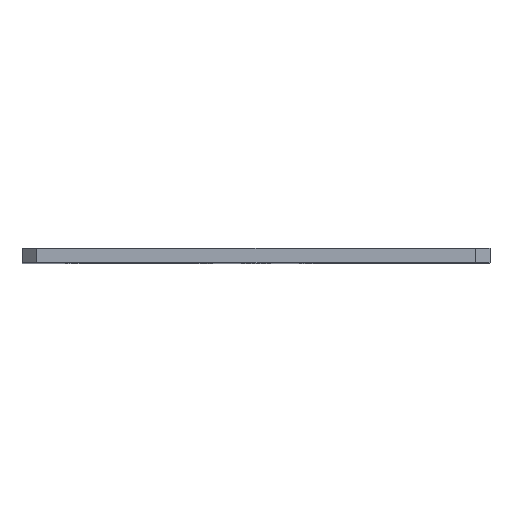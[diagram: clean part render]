
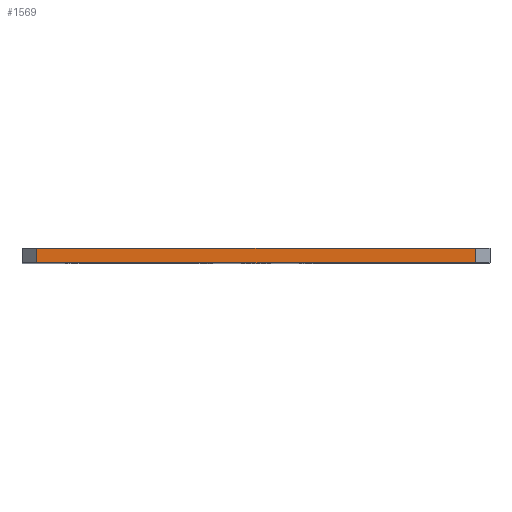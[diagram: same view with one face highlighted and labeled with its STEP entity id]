
A CAD part, top view. The second image highlights one B-rep face of the part: STEP entity #1569.
In plain terms, the highlighted planar face has unit normal (0, 0, 1).
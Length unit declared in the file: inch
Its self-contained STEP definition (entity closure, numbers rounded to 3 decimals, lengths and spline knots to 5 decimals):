
#65 = LINE ( 'NONE', #67, #1119 ) ;
#67 = CARTESIAN_POINT ( 'NONE',  ( 0., 0., 0. ) ) ;
#68 = DIRECTION ( 'NONE',  ( 1., 0., 0. ) ) ;
#92 = LINE ( 'NONE', #93, #1085 ) ;
#93 = CARTESIAN_POINT ( 'NONE',  ( 0.125, 0.125, 0. ) ) ;
#94 = DIRECTION ( 'NONE',  ( 0., -1., 0. ) ) ;
#95 = LINE ( 'NONE', #96, #1083 ) ;
#96 = CARTESIAN_POINT ( 'NONE',  ( 3.875, 0.125, 0. ) ) ;
#97 = DIRECTION ( 'NONE',  ( 0., 1., 0. ) ) ;
#564 = CARTESIAN_POINT ( 'NONE',  ( 0., 0.125, 0. ) ) ;
#572 = FACE_OUTER_BOUND ( 'NONE', #2142, .T. ) ;
#573 = PLANE ( 'NONE',  #1228 ) ;
#575 = DIRECTION ( 'NONE',  ( 0., 0., -1. ) ) ;
#576 = DIRECTION ( 'NONE',  ( -1., 0., 0. ) ) ;
#718 = CARTESIAN_POINT ( 'NONE',  ( 3.875, 0.125, 0. ) ) ;
#721 = CARTESIAN_POINT ( 'NONE',  ( 0.125, 0.125, 0. ) ) ;
#759 = CARTESIAN_POINT ( 'NONE',  ( 0.125, 0., 0. ) ) ;
#764 = CARTESIAN_POINT ( 'NONE',  ( 3.875, 0., 0. ) ) ;
#1043 = VECTOR ( 'NONE', #1701, 39.37008 ) ;
#1083 = VECTOR ( 'NONE', #97, 39.37008 ) ;
#1085 = VECTOR ( 'NONE', #94, 39.37008 ) ;
#1119 = VECTOR ( 'NONE', #68, 39.37008 ) ;
#1228 = AXIS2_PLACEMENT_3D ( 'NONE', #564, #575, #576 ) ;
#1363 = EDGE_CURVE ( 'NONE', #2290, #2287, #1699, .T. ) ;
#1420 = EDGE_CURVE ( 'NONE', #2328, #2333, #65, .T. ) ;
#1429 = EDGE_CURVE ( 'NONE', #2290, #2328, #92, .T. ) ;
#1430 = EDGE_CURVE ( 'NONE', #2333, #2287, #95, .T. ) ;
#1569 = ADVANCED_FACE ( 'NONE', ( #572 ), #573, .F. ) ;
#1699 = LINE ( 'NONE', #1700, #1043 ) ;
#1700 = CARTESIAN_POINT ( 'NONE',  ( 0., 0.125, 0. ) ) ;
#1701 = DIRECTION ( 'NONE',  ( 1., 0., 0. ) ) ;
#1813 = ORIENTED_EDGE ( 'NONE', *, *, #1363, .F. ) ;
#2142 = EDGE_LOOP ( 'NONE', ( #1813, #2402, #2403, #2404 ) ) ;
#2287 = VERTEX_POINT ( 'NONE', #718 ) ;
#2290 = VERTEX_POINT ( 'NONE', #721 ) ;
#2328 = VERTEX_POINT ( 'NONE', #759 ) ;
#2333 = VERTEX_POINT ( 'NONE', #764 ) ;
#2402 = ORIENTED_EDGE ( 'NONE', *, *, #1429, .T. ) ;
#2403 = ORIENTED_EDGE ( 'NONE', *, *, #1420, .T. ) ;
#2404 = ORIENTED_EDGE ( 'NONE', *, *, #1430, .T. ) ;
